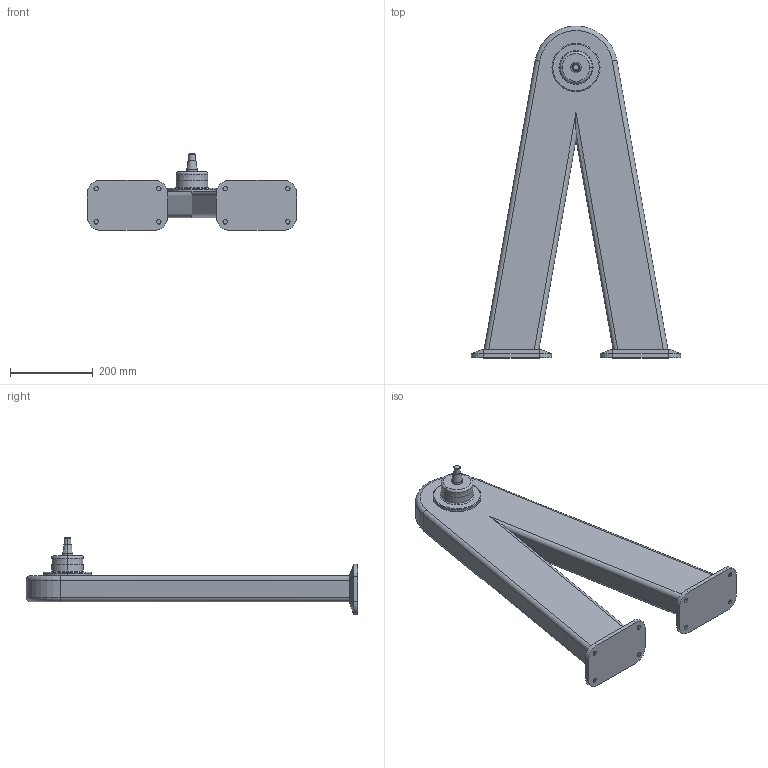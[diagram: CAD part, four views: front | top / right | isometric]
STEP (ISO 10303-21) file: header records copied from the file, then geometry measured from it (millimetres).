
FILE_DESCRIPTION (( 'STEP AP214' ), '1' );
FILE_NAME ('WP850_H700.STEP', '2014-09-08T13:03:55', ( '' ), ( '' ), 'SwSTEP 2.0', 'SolidWorks 2014', '' );
FILE_SCHEMA (( 'AUTOMOTIVE_DESIGN' ));
Length unit declared in the file: millimetre
Products named in the file (1): WP850_H700
Bounding box: 503.88 x 800 x 183.98 mm (x, y, z)
Volume: 12867482.1 mm3; surface area: 627844.7 mm2
Topology: 1 solids, 1 shells, 101 faces, 221 edges, 136 vertices
Faces by surface type: cylinder 41, plane 38, cone 14, torus 8
Entity records: 2795 total; most frequent: DIRECTION 513, CARTESIAN_POINT 489, ORIENTED_EDGE 442, EDGE_CURVE 221, AXIS2_PLACEMENT_3D 200, VERTEX_POINT 136, EDGE_LOOP 115, VECTOR 113
